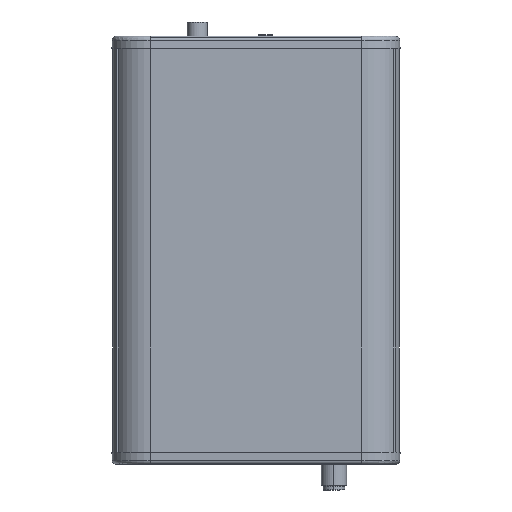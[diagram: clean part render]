
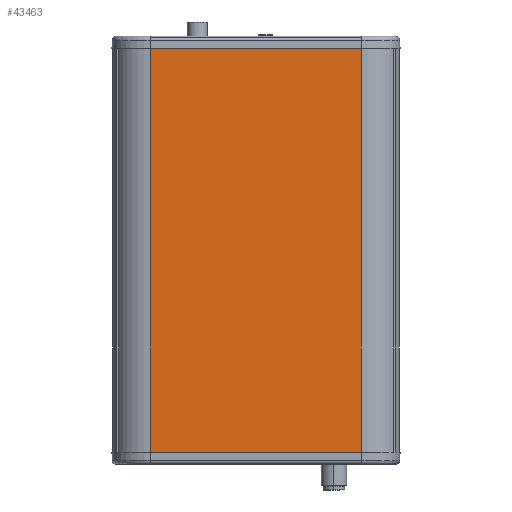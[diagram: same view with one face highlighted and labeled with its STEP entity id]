
A CAD part, front view. The second image highlights one B-rep face of the part: STEP entity #43463.
In plain terms, the highlighted planar face has unit normal (0, -1, 0).
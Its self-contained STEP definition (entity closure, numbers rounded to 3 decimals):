
#8650 = LINE ( 'NONE', #45746, #42708 ) ;
#14101 = PLANE ( 'NONE',  #15754 ) ;
#15754 = AXIS2_PLACEMENT_3D ( 'NONE', #71044, #132116, #133405 ) ;
#19665 = VERTEX_POINT ( 'NONE', #93629 ) ;
#35497 = DIRECTION ( 'NONE',  ( 0., 0., 1. ) ) ;
#36419 = CARTESIAN_POINT ( 'NONE',  ( -26.37, -9.5, 101. ) ) ;
#42708 = VECTOR ( 'NONE', #224986, 1000. ) ;
#43463 = ADVANCED_FACE ( 'NONE', ( #233080 ), #14101, .T. ) ;
#45746 = CARTESIAN_POINT ( 'NONE',  ( -26.37, -9.5, 0. ) ) ;
#51289 = ORIENTED_EDGE ( 'NONE', *, *, #254431, .T. ) ;
#53794 = DIRECTION ( 'NONE',  ( 0., 0., 1. ) ) ;
#71044 = CARTESIAN_POINT ( 'NONE',  ( 26.37, -9.5, 0. ) ) ;
#73068 = CARTESIAN_POINT ( 'NONE',  ( -26.37, -9.5, 101. ) ) ;
#73899 = LINE ( 'NONE', #235907, #91725 ) ;
#77233 = EDGE_CURVE ( 'NONE', #19665, #227866, #8650, .T. ) ;
#91725 = VECTOR ( 'NONE', #35497, 1000. ) ;
#93629 = CARTESIAN_POINT ( 'NONE',  ( -26.37, -9.5, 0. ) ) ;
#94262 = VERTEX_POINT ( 'NONE', #36419 ) ;
#105053 = CARTESIAN_POINT ( 'NONE',  ( 26.37, -9.5, 0. ) ) ;
#131540 = DIRECTION ( 'NONE',  ( -1., 0., 0. ) ) ;
#132116 = DIRECTION ( 'NONE',  ( 0., -1., 0. ) ) ;
#133405 = DIRECTION ( 'NONE',  ( -1., 0., 0. ) ) ;
#139127 = VECTOR ( 'NONE', #131540, 1000. ) ;
#145065 = CARTESIAN_POINT ( 'NONE',  ( 26.37, -9.5, 101. ) ) ;
#156698 = VECTOR ( 'NONE', #53794, 1000. ) ;
#168815 = LINE ( 'NONE', #73068, #139127 ) ;
#189284 = ORIENTED_EDGE ( 'NONE', *, *, #201274, .T. ) ;
#201274 = EDGE_CURVE ( 'NONE', #227866, #217312, #73899, .T. ) ;
#201697 = ORIENTED_EDGE ( 'NONE', *, *, #77233, .T. ) ;
#202480 = EDGE_CURVE ( 'NONE', #19665, #94262, #217021, .T. ) ;
#216958 = ORIENTED_EDGE ( 'NONE', *, *, #202480, .F. ) ;
#217021 = LINE ( 'NONE', #233048, #156698 ) ;
#217312 = VERTEX_POINT ( 'NONE', #145065 ) ;
#224986 = DIRECTION ( 'NONE',  ( 1., 0., 0. ) ) ;
#227866 = VERTEX_POINT ( 'NONE', #105053 ) ;
#233048 = CARTESIAN_POINT ( 'NONE',  ( -26.37, -9.5, 0. ) ) ;
#233080 = FACE_OUTER_BOUND ( 'NONE', #235375, .T. ) ;
#235375 = EDGE_LOOP ( 'NONE', ( #51289, #216958, #201697, #189284 ) ) ;
#235907 = CARTESIAN_POINT ( 'NONE',  ( 26.37, -9.5, 0. ) ) ;
#254431 = EDGE_CURVE ( 'NONE', #217312, #94262, #168815, .T. ) ;
